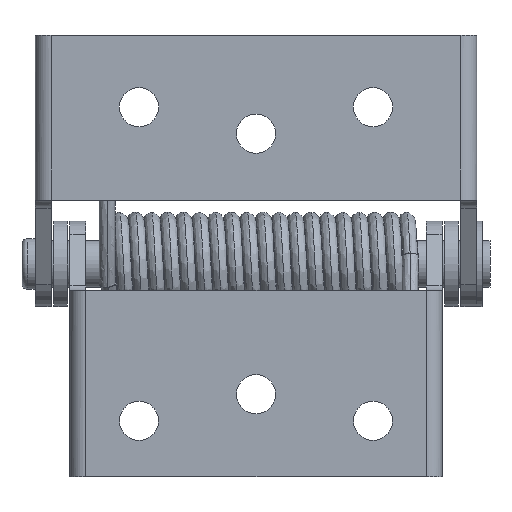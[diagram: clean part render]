
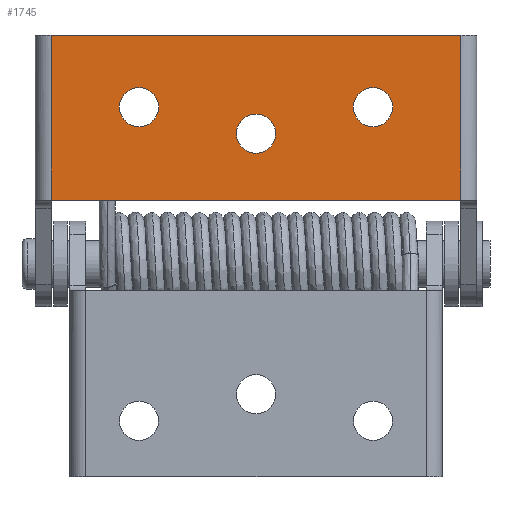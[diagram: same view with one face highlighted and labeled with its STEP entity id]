
A CAD part, front view. The second image highlights one B-rep face of the part: STEP entity #1745.
In plain terms, the highlighted planar face has unit normal (0, -1, 0).
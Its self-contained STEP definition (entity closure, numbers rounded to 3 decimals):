
#52 = LINE ( 'NONE', #11481, #13086 ) ;
#292 = CARTESIAN_POINT ( 'NONE',  ( 38.5, 0., 43. ) ) ;
#337 = DIRECTION ( 'NONE',  ( -1., 0., 0. ) ) ;
#372 = DIRECTION ( 'NONE',  ( 0., 0., 1. ) ) ;
#595 = EDGE_LOOP ( 'NONE', ( #958, #8467 ) ) ;
#650 = EDGE_CURVE ( 'NONE', #7589, #5358, #5552, .T. ) ;
#727 = CARTESIAN_POINT ( 'NONE',  ( 41.5, 0., 12. ) ) ;
#800 = AXIS2_PLACEMENT_3D ( 'NONE', #727, #1940, #3710 ) ;
#958 = ORIENTED_EDGE ( 'NONE', *, *, #4066, .T. ) ;
#978 = DIRECTION ( 'NONE',  ( 0., 0., 1. ) ) ;
#1003 = DIRECTION ( 'NONE',  ( 0., 1., 0. ) ) ;
#1065 = EDGE_CURVE ( 'NONE', #2604, #5178, #4011, .T. ) ;
#1114 = DIRECTION ( 'NONE',  ( 0., 0., 1. ) ) ;
#1544 = CARTESIAN_POINT ( 'NONE',  ( -22., 0., 25.815 ) ) ;
#1745 = ADVANCED_FACE ( 'NONE', ( #1749, #10196, #4937, #10070 ), #5949, .F. ) ;
#1749 = FACE_BOUND ( 'NONE', #11504, .T. ) ;
#1889 = DIRECTION ( 'NONE',  ( 0., 1., 0. ) ) ;
#1940 = DIRECTION ( 'NONE',  ( 0., 1., 0. ) ) ;
#1947 = LINE ( 'NONE', #6832, #10493 ) ;
#2129 = VERTEX_POINT ( 'NONE', #3049 ) ;
#2370 = CARTESIAN_POINT ( 'NONE',  ( 38.5, 0., 12. ) ) ;
#2604 = VERTEX_POINT ( 'NONE', #2370 ) ;
#2688 = AXIS2_PLACEMENT_3D ( 'NONE', #12602, #8292, #1114 ) ;
#2794 = DIRECTION ( 'NONE',  ( 0., 0., 1. ) ) ;
#2925 = CARTESIAN_POINT ( 'NONE',  ( 38.5, 0., 43. ) ) ;
#2979 = EDGE_CURVE ( 'NONE', #2604, #2129, #10617, .T. ) ;
#3049 = CARTESIAN_POINT ( 'NONE',  ( -38.5, 0., 12. ) ) ;
#3337 = VECTOR ( 'NONE', #337, 1000. ) ;
#3386 = ORIENTED_EDGE ( 'NONE', *, *, #10816, .T. ) ;
#3399 = CIRCLE ( 'NONE', #12232, 3.685 ) ;
#3545 = ORIENTED_EDGE ( 'NONE', *, *, #2979, .F. ) ;
#3607 = DIRECTION ( 'NONE',  ( 0., 1., 0. ) ) ;
#3710 = DIRECTION ( 'NONE',  ( 0., 0., 1. ) ) ;
#3717 = ORIENTED_EDGE ( 'NONE', *, *, #3744, .T. ) ;
#3744 = EDGE_CURVE ( 'NONE', #7730, #10497, #8736, .T. ) ;
#4011 = LINE ( 'NONE', #2925, #10289 ) ;
#4066 = EDGE_CURVE ( 'NONE', #12395, #7105, #7882, .T. ) ;
#4189 = CARTESIAN_POINT ( 'NONE',  ( -38.5, 0., 43. ) ) ;
#4328 = CARTESIAN_POINT ( 'NONE',  ( 0., 0., 20.815 ) ) ;
#4606 = ORIENTED_EDGE ( 'NONE', *, *, #1065, .T. ) ;
#4762 = DIRECTION ( 'NONE',  ( 0., 1., 0. ) ) ;
#4937 = FACE_BOUND ( 'NONE', #10108, .T. ) ;
#5115 = AXIS2_PLACEMENT_3D ( 'NONE', #5960, #1889, #12356 ) ;
#5178 = VERTEX_POINT ( 'NONE', #292 ) ;
#5185 = ORIENTED_EDGE ( 'NONE', *, *, #8516, .T. ) ;
#5336 = CIRCLE ( 'NONE', #11796, 3.685 ) ;
#5358 = VERTEX_POINT ( 'NONE', #9148 ) ;
#5492 = CARTESIAN_POINT ( 'NONE',  ( 41.5, 0., 12. ) ) ;
#5552 = CIRCLE ( 'NONE', #9641, 3.685 ) ;
#5949 = PLANE ( 'NONE',  #800 ) ;
#5960 = CARTESIAN_POINT ( 'NONE',  ( -22., 0., 29.5 ) ) ;
#6093 = CARTESIAN_POINT ( 'NONE',  ( 22., 0., 29.5 ) ) ;
#6378 = VERTEX_POINT ( 'NONE', #4189 ) ;
#6832 = CARTESIAN_POINT ( 'NONE',  ( -38.5, 0., 12. ) ) ;
#7105 = VERTEX_POINT ( 'NONE', #8066 ) ;
#7589 = VERTEX_POINT ( 'NONE', #4328 ) ;
#7730 = VERTEX_POINT ( 'NONE', #1544 ) ;
#7882 = CIRCLE ( 'NONE', #11323, 3.685 ) ;
#8066 = CARTESIAN_POINT ( 'NONE',  ( 22., 0., 25.815 ) ) ;
#8292 = DIRECTION ( 'NONE',  ( 0., 1., 0. ) ) ;
#8331 = DIRECTION ( 'NONE',  ( 0., 0., 1. ) ) ;
#8467 = ORIENTED_EDGE ( 'NONE', *, *, #10099, .T. ) ;
#8516 = EDGE_CURVE ( 'NONE', #6378, #2129, #1947, .T. ) ;
#8736 = CIRCLE ( 'NONE', #2688, 3.685 ) ;
#9001 = DIRECTION ( 'NONE',  ( 0., 0., 1. ) ) ;
#9148 = CARTESIAN_POINT ( 'NONE',  ( 0., 0., 28.185 ) ) ;
#9641 = AXIS2_PLACEMENT_3D ( 'NONE', #9961, #3607, #2794 ) ;
#9961 = CARTESIAN_POINT ( 'NONE',  ( 0., 0., 24.5 ) ) ;
#10070 = FACE_OUTER_BOUND ( 'NONE', #10266, .T. ) ;
#10099 = EDGE_CURVE ( 'NONE', #7105, #12395, #5336, .T. ) ;
#10108 = EDGE_LOOP ( 'NONE', ( #10382, #10552 ) ) ;
#10196 = FACE_BOUND ( 'NONE', #595, .T. ) ;
#10247 = CARTESIAN_POINT ( 'NONE',  ( 22., 0., 33.185 ) ) ;
#10266 = EDGE_LOOP ( 'NONE', ( #3386, #5185, #3545, #4606 ) ) ;
#10289 = VECTOR ( 'NONE', #8331, 1000. ) ;
#10339 = EDGE_CURVE ( 'NONE', #10497, #7730, #11362, .T. ) ;
#10343 = DIRECTION ( 'NONE',  ( -1., 0., 0. ) ) ;
#10382 = ORIENTED_EDGE ( 'NONE', *, *, #12309, .T. ) ;
#10493 = VECTOR ( 'NONE', #11017, 1000. ) ;
#10497 = VERTEX_POINT ( 'NONE', #11215 ) ;
#10552 = ORIENTED_EDGE ( 'NONE', *, *, #650, .T. ) ;
#10617 = LINE ( 'NONE', #5492, #3337 ) ;
#10816 = EDGE_CURVE ( 'NONE', #5178, #6378, #52, .T. ) ;
#11017 = DIRECTION ( 'NONE',  ( 0., 0., -1. ) ) ;
#11215 = CARTESIAN_POINT ( 'NONE',  ( -22., 0., 33.185 ) ) ;
#11255 = DIRECTION ( 'NONE',  ( 0., 1., 0. ) ) ;
#11323 = AXIS2_PLACEMENT_3D ( 'NONE', #11787, #4762, #372 ) ;
#11362 = CIRCLE ( 'NONE', #5115, 3.685 ) ;
#11481 = CARTESIAN_POINT ( 'NONE',  ( 41.5, 0., 43. ) ) ;
#11504 = EDGE_LOOP ( 'NONE', ( #12132, #3717 ) ) ;
#11787 = CARTESIAN_POINT ( 'NONE',  ( 22., 0., 29.5 ) ) ;
#11796 = AXIS2_PLACEMENT_3D ( 'NONE', #6093, #1003, #9001 ) ;
#12132 = ORIENTED_EDGE ( 'NONE', *, *, #10339, .T. ) ;
#12232 = AXIS2_PLACEMENT_3D ( 'NONE', #12337, #11255, #978 ) ;
#12309 = EDGE_CURVE ( 'NONE', #5358, #7589, #3399, .T. ) ;
#12337 = CARTESIAN_POINT ( 'NONE',  ( 0., 0., 24.5 ) ) ;
#12356 = DIRECTION ( 'NONE',  ( 0., 0., 1. ) ) ;
#12395 = VERTEX_POINT ( 'NONE', #10247 ) ;
#12602 = CARTESIAN_POINT ( 'NONE',  ( -22., 0., 29.5 ) ) ;
#13086 = VECTOR ( 'NONE', #10343, 1000. ) ;
